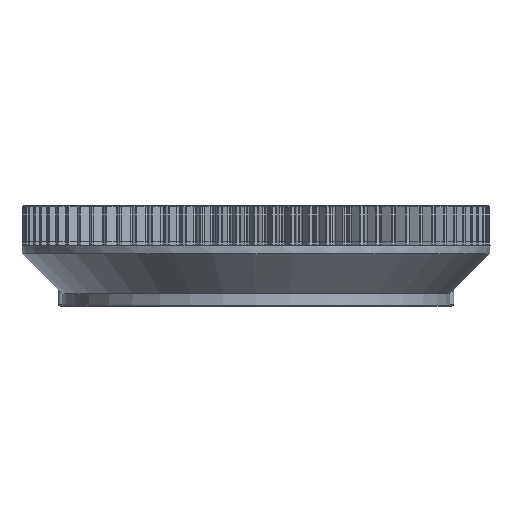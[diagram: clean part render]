
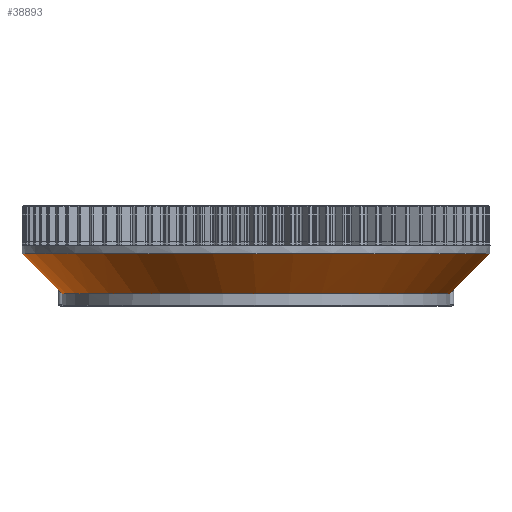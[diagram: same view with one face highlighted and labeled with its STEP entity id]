
A CAD part, left-side view. The second image highlights one B-rep face of the part: STEP entity #38893.
In plain terms, the highlighted conical face has half-angle 45 degrees and reference radius 61.55 mm.
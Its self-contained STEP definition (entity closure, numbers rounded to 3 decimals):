
#436=CONICAL_SURFACE('',#4461,61.55,0.785);
#1929=CIRCLE('',#4389,51.);
#1959=CIRCLE('',#4462,61.55);
#4389=AXIS2_PLACEMENT_3D('',#85669,#17023,#17024);
#4461=AXIS2_PLACEMENT_3D('',#86031,#17213,#17214);
#4462=AXIS2_PLACEMENT_3D('',#86032,#17215,#17216);
#17023=DIRECTION('',(0.,0.,1.));
#17024=DIRECTION('',(-51.,0.,0.));
#17213=DIRECTION('',(0.,0.,1.));
#17214=DIRECTION('',(-61.55,0.,0.));
#17215=DIRECTION('',(0.,0.,1.));
#17216=DIRECTION('',(61.55,0.,0.));
#19658=VERTEX_POINT('',#85643);
#19659=VERTEX_POINT('',#85666);
#19660=VERTEX_POINT('',#85670);
#19661=VERTEX_POINT('',#85695);
#19746=VERTEX_POINT('',#86033);
#20395=B_SPLINE_CURVE_WITH_KNOTS('',3,(#85644,#85645,#85646,#85647,#85648,
#85649,#85650,#85651,#85652,#85653,#85654,#85655,#85656,#85657,#85658,#85659,
#85660,#85661,#85662,#85663,#85664,#85665),.UNSPECIFIED.,.F.,.U.,(4,2,2,
2,2,2,2,2,2,2,4),(0.,0.51,1.019,1.438,
1.647,1.857,2.066,2.276,2.695,
3.204,3.714),.UNSPECIFIED.);
#20396=B_SPLINE_CURVE_WITH_KNOTS('',3,(#85673,#85674,#85675,#85676,#85677,
#85678,#85679,#85680,#85681,#85682,#85683,#85684,#85685,#85686,#85687,#85688,
#85689,#85690,#85691,#85692,#85693,#85694),.UNSPECIFIED.,.F.,.U.,(4,2,2,
2,2,2,2,2,2,2,4),(0.,0.51,1.019,1.438,
1.647,1.857,2.066,2.276,2.695,
3.204,3.714),.UNSPECIFIED.);
#24590=EDGE_CURVE('',#19659,#19658,#20395,.T.);
#24592=EDGE_CURVE('',#19660,#19659,#1929,.T.);
#24594=EDGE_CURVE('',#19661,#19660,#20396,.T.);
#24712=EDGE_CURVE('',#19658,#19661,#1929,.T.);
#24713=EDGE_CURVE('',#19746,#19746,#1959,.T.);
#33297=ORIENTED_EDGE('',*,*,#24590,.T.);
#33298=ORIENTED_EDGE('',*,*,#24712,.T.);
#33299=ORIENTED_EDGE('',*,*,#24594,.T.);
#33300=ORIENTED_EDGE('',*,*,#24592,.T.);
#33301=ORIENTED_EDGE('',*,*,#24713,.F.);
#35181=EDGE_LOOP('',(#33297,#33298,#33299,#33300));
#35182=EDGE_LOOP('',(#33301));
#37054=FACE_BOUND('',#35181,.T.);
#37055=FACE_BOUND('',#35182,.T.);
#38893=ADVANCED_FACE('',(#37054,#37055),#436,.T.);
#85643=CARTESIAN_POINT('',(1.,-50.99,3.35));
#85644=CARTESIAN_POINT('',(-1.,-50.98,3.34));
#85645=CARTESIAN_POINT('',(-1.002,-51.1,3.46));
#85646=CARTESIAN_POINT('',(-0.982,-51.231,3.591));
#85647=CARTESIAN_POINT('',(-0.887,-51.482,3.839));
#85648=CARTESIAN_POINT('',(-0.811,-51.601,3.957));
#85649=CARTESIAN_POINT('',(-0.634,-51.782,4.135));
#85650=CARTESIAN_POINT('',(-0.528,-51.86,4.212));
#85651=CARTESIAN_POINT('',(-0.343,-51.942,4.293));
#85652=CARTESIAN_POINT('',(-0.277,-51.963,4.314));
#85653=CARTESIAN_POINT('',(-0.14,-51.993,4.343));
#85654=CARTESIAN_POINT('',(-0.07,-52.,4.35));
#85655=CARTESIAN_POINT('',(0.07,-52.,4.35));
#85656=CARTESIAN_POINT('',(0.14,-51.993,4.343));
#85657=CARTESIAN_POINT('',(0.277,-51.963,4.314));
#85658=CARTESIAN_POINT('',(0.343,-51.942,4.293));
#85659=CARTESIAN_POINT('',(0.528,-51.86,4.212));
#85660=CARTESIAN_POINT('',(0.634,-51.782,4.135));
#85661=CARTESIAN_POINT('',(0.811,-51.601,3.957));
#85662=CARTESIAN_POINT('',(0.887,-51.482,3.839));
#85663=CARTESIAN_POINT('',(0.982,-51.231,3.591));
#85664=CARTESIAN_POINT('',(1.002,-51.1,3.46));
#85665=CARTESIAN_POINT('',(1.,-50.98,3.34));
#85666=CARTESIAN_POINT('',(-1.,-50.99,3.35));
#85669=CARTESIAN_POINT('',(0.,0.,3.35));
#85670=CARTESIAN_POINT('',(-1.,50.99,3.35));
#85673=CARTESIAN_POINT('',(1.,50.98,3.34));
#85674=CARTESIAN_POINT('',(1.002,51.1,3.46));
#85675=CARTESIAN_POINT('',(0.982,51.231,3.591));
#85676=CARTESIAN_POINT('',(0.887,51.482,3.839));
#85677=CARTESIAN_POINT('',(0.811,51.601,3.957));
#85678=CARTESIAN_POINT('',(0.634,51.782,4.135));
#85679=CARTESIAN_POINT('',(0.528,51.86,4.212));
#85680=CARTESIAN_POINT('',(0.343,51.942,4.293));
#85681=CARTESIAN_POINT('',(0.277,51.963,4.314));
#85682=CARTESIAN_POINT('',(0.14,51.993,4.343));
#85683=CARTESIAN_POINT('',(0.07,52.,4.35));
#85684=CARTESIAN_POINT('',(-0.07,52.,4.35));
#85685=CARTESIAN_POINT('',(-0.14,51.993,4.343));
#85686=CARTESIAN_POINT('',(-0.277,51.963,4.314));
#85687=CARTESIAN_POINT('',(-0.343,51.942,4.293));
#85688=CARTESIAN_POINT('',(-0.528,51.86,4.212));
#85689=CARTESIAN_POINT('',(-0.634,51.782,4.135));
#85690=CARTESIAN_POINT('',(-0.811,51.601,3.957));
#85691=CARTESIAN_POINT('',(-0.887,51.482,3.839));
#85692=CARTESIAN_POINT('',(-0.982,51.231,3.591));
#85693=CARTESIAN_POINT('',(-1.002,51.1,3.46));
#85694=CARTESIAN_POINT('',(-1.,50.98,3.34));
#85695=CARTESIAN_POINT('',(1.,50.99,3.35));
#86031=CARTESIAN_POINT('',(0.,0.,13.9));
#86032=CARTESIAN_POINT('',(0.,0.,13.9));
#86033=CARTESIAN_POINT('',(61.55,0.,13.9));
